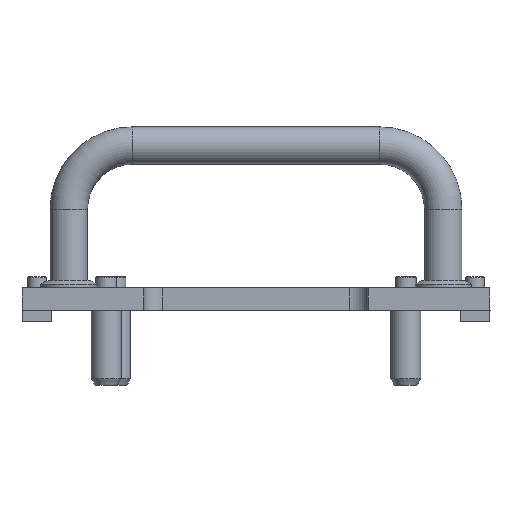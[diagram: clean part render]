
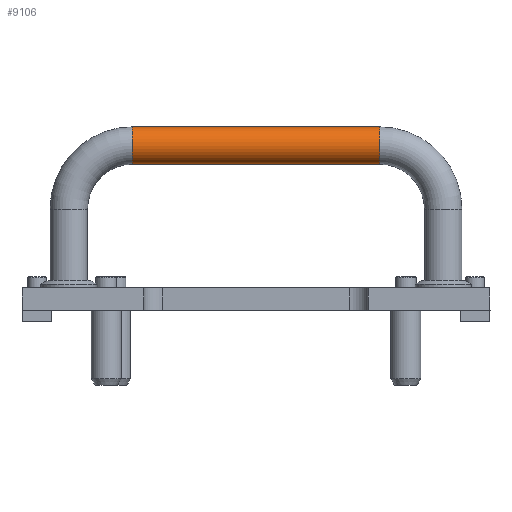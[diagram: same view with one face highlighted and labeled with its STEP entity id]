
A CAD part, left-side view. The second image highlights one B-rep face of the part: STEP entity #9106.
In plain terms, the highlighted cylindrical face has radius 5 mm (diameter 10 mm), a full revolution.
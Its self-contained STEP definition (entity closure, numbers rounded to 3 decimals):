
#313=CYLINDRICAL_SURFACE('',#9942,5.);
#647=CIRCLE('',#9933,5.);
#648=CIRCLE('',#9934,5.);
#652=CIRCLE('',#9940,5.);
#653=CIRCLE('',#9941,5.);
#1557=LINE('',#18271,#2210);
#2210=VECTOR('',#11964,5.);
#2822=FACE_OUTER_BOUND('',#3551,.T.);
#3551=EDGE_LOOP('',(#8399,#8400,#8401,#8402,#8403,#8404));
#4646=VERTEX_POINT('',#18253);
#4647=VERTEX_POINT('',#18255);
#4650=VERTEX_POINT('',#18265);
#4651=VERTEX_POINT('',#18267);
#5894=EDGE_CURVE('',#4646,#4647,#647,.T.);
#5895=EDGE_CURVE('',#4647,#4646,#648,.T.);
#5900=EDGE_CURVE('',#4650,#4651,#652,.T.);
#5901=EDGE_CURVE('',#4651,#4650,#653,.T.);
#5902=EDGE_CURVE('',#4651,#4647,#1557,.T.);
#8399=ORIENTED_EDGE('',*,*,#5901,.F.);
#8400=ORIENTED_EDGE('',*,*,#5902,.T.);
#8401=ORIENTED_EDGE('',*,*,#5894,.F.);
#8402=ORIENTED_EDGE('',*,*,#5895,.F.);
#8403=ORIENTED_EDGE('',*,*,#5902,.F.);
#8404=ORIENTED_EDGE('',*,*,#5900,.F.);
#9106=ADVANCED_FACE('',(#2822),#313,.T.);
#9933=AXIS2_PLACEMENT_3D('',#18256,#11943,#11944);
#9934=AXIS2_PLACEMENT_3D('',#18257,#11945,#11946);
#9940=AXIS2_PLACEMENT_3D('',#18268,#11958,#11959);
#9941=AXIS2_PLACEMENT_3D('',#18269,#11960,#11961);
#9942=AXIS2_PLACEMENT_3D('',#18270,#11962,#11963);
#11943=DIRECTION('center_axis',(-1.,0.,0.));
#11944=DIRECTION('ref_axis',(0.,-1.,0.));
#11945=DIRECTION('center_axis',(-1.,0.,0.));
#11946=DIRECTION('ref_axis',(0.,-1.,0.));
#11958=DIRECTION('center_axis',(1.,0.,0.));
#11959=DIRECTION('ref_axis',(0.,-1.,0.));
#11960=DIRECTION('center_axis',(1.,0.,0.));
#11961=DIRECTION('ref_axis',(0.,-1.,0.));
#11962=DIRECTION('center_axis',(1.,0.,0.));
#11963=DIRECTION('ref_axis',(0.,-1.,0.));
#11964=DIRECTION('',(-1.,0.,0.));
#18253=CARTESIAN_POINT('',(-33.,33.,0.));
#18255=CARTESIAN_POINT('',(-33.,43.,0.));
#18256=CARTESIAN_POINT('Origin',(-33.,38.,0.));
#18257=CARTESIAN_POINT('Origin',(-33.,38.,0.));
#18265=CARTESIAN_POINT('',(33.,33.,0.));
#18267=CARTESIAN_POINT('',(33.,43.,0.));
#18268=CARTESIAN_POINT('Origin',(33.,38.,0.));
#18269=CARTESIAN_POINT('Origin',(33.,38.,0.));
#18270=CARTESIAN_POINT('Origin',(0.,38.,0.));
#18271=CARTESIAN_POINT('',(0.,43.,0.));
